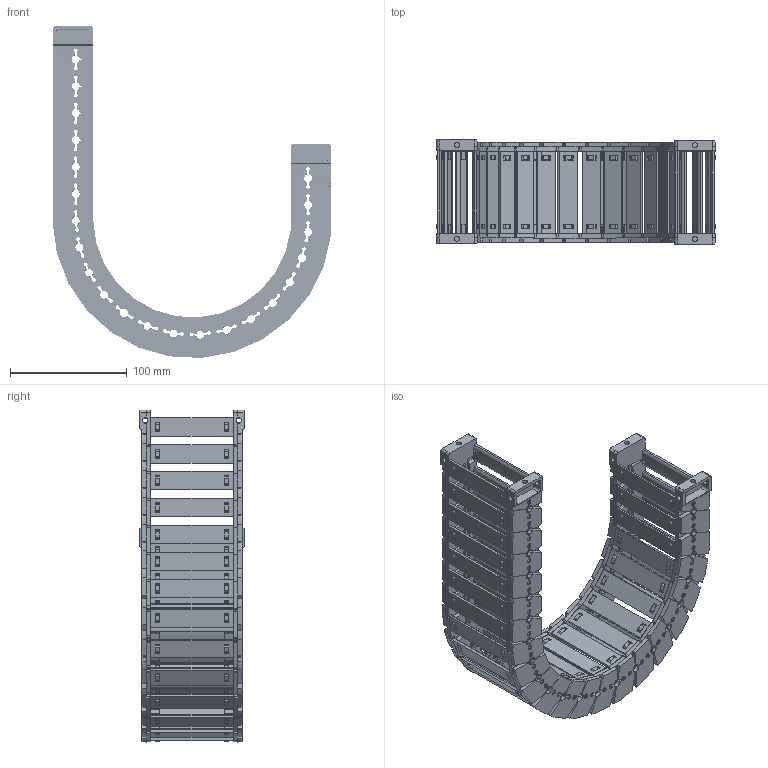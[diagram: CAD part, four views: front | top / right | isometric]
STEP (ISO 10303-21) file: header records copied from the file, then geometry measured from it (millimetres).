
FILE_DESCRIPTION((''),'2;1');
FILE_NAME('JY-28X70-R100_ASM','2026-03-25T19:31:48',('admin'),(''),'CREO PARAMETRIC BY PTC INC, 2021023','CREO PARAMETRIC BY PTC INC, 2021023','');
FILE_SCHEMA(('CONFIG_CONTROL_DESIGN'));
Length unit declared in the file: millimetre
Products named in the file (11): 28XL-L; 25-35XL-YP; 28XL-R; ASM0001_ASM; 28-LTT-A-L; 28-LTT-A-R; 28XL-LTT-A_ASM; 28-LTT-B-L; 28-LTT-B-R; 28XL-LTT-B_ASM; JY-28X70-R100_ASM
Assembly tree (35 placements, depth 3):
  JY-28X70-R100_ASM
    ASM0001_ASM  x21
      28XL-L
      25-35XL-YP
      28XL-R
    28XL-LTT-A_ASM
      28-LTT-A-L
      25-35XL-YP  x2
      28-LTT-A-R
    28XL-LTT-B_ASM
      28-LTT-B-L
      25-35XL-YP  x2
      28-LTT-B-R
Bounding box: 238.21 x 89 x 283.78 mm (x, y, z)
Volume: 397381.6 mm3; surface area: 287621.7 mm2
Topology: 92 solids, 92 shells, 7454 faces, 22156 edges, 14794 vertices
Faces by surface type: plane 4887, cone 1339, cylinder 1072, bspline 156
Entity records: 29119 total; most frequent: CARTESIAN_POINT 9493, ORIENTED_EDGE 4352, DIRECTION 3661, EDGE_CURVE 2176, VERTEX_POINT 1454, VECTOR 1365, LINE 1365, AXIS2_PLACEMENT_3D 1148
